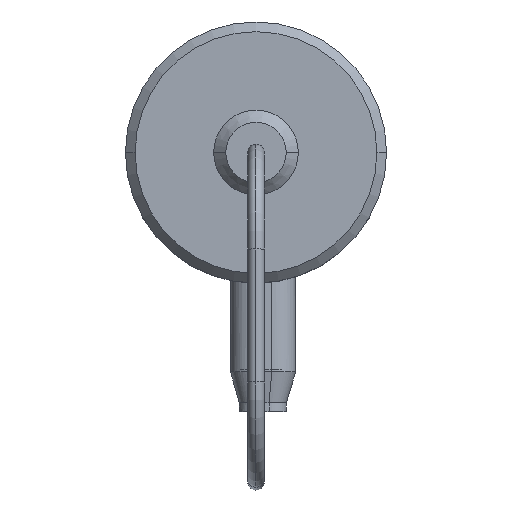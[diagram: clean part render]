
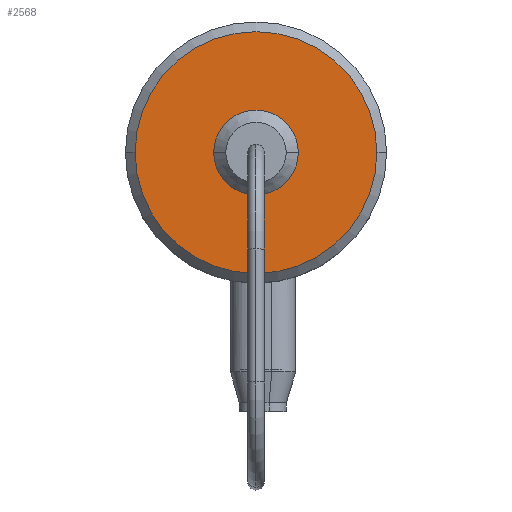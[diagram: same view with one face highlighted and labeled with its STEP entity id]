
A CAD part, top view. The second image highlights one B-rep face of the part: STEP entity #2568.
In plain terms, the highlighted planar face has unit normal (0, 0, 1).
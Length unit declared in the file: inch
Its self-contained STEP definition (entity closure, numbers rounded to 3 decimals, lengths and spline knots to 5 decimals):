
#131 = ORIENTED_EDGE ( 'NONE', *, *, #3898, .T. ) ;
#267 = CARTESIAN_POINT ( 'NONE',  ( 0., 0., 1.3 ) ) ;
#276 = VERTEX_POINT ( 'NONE', #327 ) ;
#282 = ORIENTED_EDGE ( 'NONE', *, *, #3918, .T. ) ;
#327 = CARTESIAN_POINT ( 'NONE',  ( 0.5, 0., 1.3 ) ) ;
#386 = AXIS2_PLACEMENT_3D ( 'NONE', #1021, #3855, #2134 ) ;
#452 = CARTESIAN_POINT ( 'NONE',  ( 0., -0.54, 1.3 ) ) ;
#544 = AXIS2_PLACEMENT_3D ( 'NONE', #1182, #2544, #883 ) ;
#883 = DIRECTION ( 'NONE',  ( 1., 0., 0. ) ) ;
#916 = VERTEX_POINT ( 'NONE', #3589 ) ;
#1021 = CARTESIAN_POINT ( 'NONE',  ( 0., 0., 1.3 ) ) ;
#1182 = CARTESIAN_POINT ( 'NONE',  ( 0., 0., 1.3 ) ) ;
#1248 = EDGE_CURVE ( 'NONE', #2849, #4245, #3111, .T. ) ;
#1824 = DIRECTION ( 'NONE',  ( 0., 0., -1. ) ) ;
#1902 = CIRCLE ( 'NONE', #544, 0.5 ) ;
#1925 = EDGE_LOOP ( 'NONE', ( #3146, #131 ) ) ;
#1988 = DIRECTION ( 'NONE',  ( 1., 0., 0. ) ) ;
#2134 = DIRECTION ( 'NONE',  ( 1., 0., 0. ) ) ;
#2148 = CARTESIAN_POINT ( 'NONE',  ( 0.175, 0., 1.3 ) ) ;
#2195 = PLANE ( 'NONE',  #2693 ) ;
#2370 = EDGE_LOOP ( 'NONE', ( #4155, #282 ) ) ;
#2544 = DIRECTION ( 'NONE',  ( 0., 0., 1. ) ) ;
#2568 = ADVANCED_FACE ( 'NONE', ( #3230, #3213 ), #2195, .F. ) ;
#2671 = DIRECTION ( 'NONE',  ( 1., 0., 0. ) ) ;
#2693 = AXIS2_PLACEMENT_3D ( 'NONE', #452, #1824, #2927 ) ;
#2716 = CARTESIAN_POINT ( 'NONE',  ( -0.175, 0., 1.3 ) ) ;
#2779 = CIRCLE ( 'NONE', #4364, 0.175 ) ;
#2849 = VERTEX_POINT ( 'NONE', #2148 ) ;
#2927 = DIRECTION ( 'NONE',  ( 1., 0., 0. ) ) ;
#3111 = CIRCLE ( 'NONE', #386, 0.175 ) ;
#3146 = ORIENTED_EDGE ( 'NONE', *, *, #1248, .T. ) ;
#3213 = FACE_BOUND ( 'NONE', #1925, .T. ) ;
#3230 = FACE_OUTER_BOUND ( 'NONE', #2370, .T. ) ;
#3346 = CIRCLE ( 'NONE', #3642, 0.5 ) ;
#3481 = EDGE_CURVE ( 'NONE', #276, #916, #1902, .T. ) ;
#3589 = CARTESIAN_POINT ( 'NONE',  ( -0.5, 0., 1.3 ) ) ;
#3642 = AXIS2_PLACEMENT_3D ( 'NONE', #3708, #4415, #1988 ) ;
#3708 = CARTESIAN_POINT ( 'NONE',  ( 0., 0., 1.3 ) ) ;
#3855 = DIRECTION ( 'NONE',  ( 0., 0., -1. ) ) ;
#3898 = EDGE_CURVE ( 'NONE', #4245, #2849, #2779, .T. ) ;
#3918 = EDGE_CURVE ( 'NONE', #916, #276, #3346, .T. ) ;
#4155 = ORIENTED_EDGE ( 'NONE', *, *, #3481, .T. ) ;
#4245 = VERTEX_POINT ( 'NONE', #2716 ) ;
#4364 = AXIS2_PLACEMENT_3D ( 'NONE', #267, #4392, #2671 ) ;
#4392 = DIRECTION ( 'NONE',  ( 0., 0., -1. ) ) ;
#4415 = DIRECTION ( 'NONE',  ( 0., 0., 1. ) ) ;
